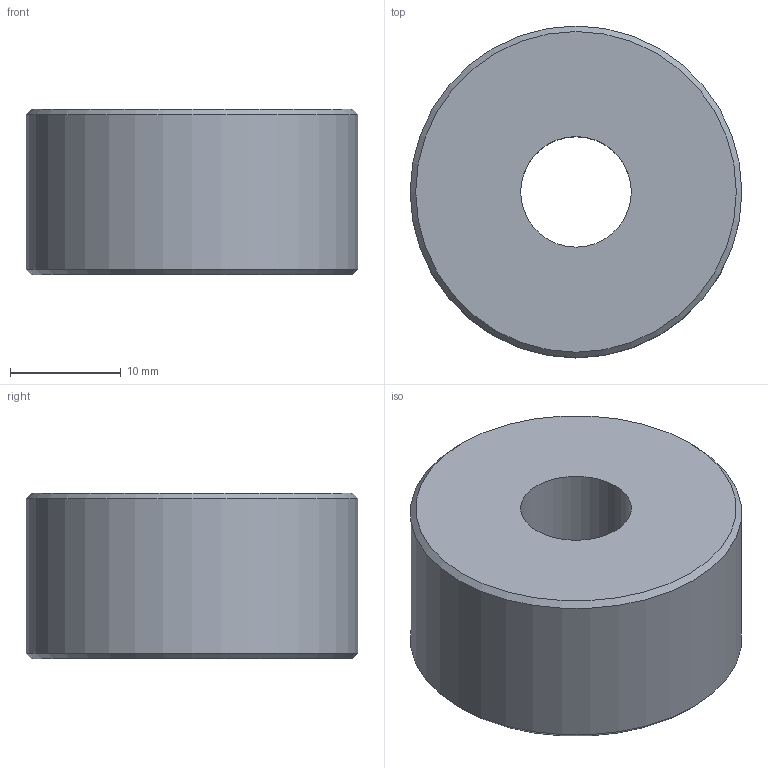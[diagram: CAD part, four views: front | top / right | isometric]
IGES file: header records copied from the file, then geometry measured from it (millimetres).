
Start section: File produced by SOLID-CONCEP (BRep Solid - Entity 186)
Global section: file name: galet.igs; native system: SOLID-CONCEPT V.5.xx; preprocessor: SOLID-CONCEPT-IGES-OUT v2.00; date: 090204.204044; units: millimetre
Bounding box: 30 x 30 x 15 mm (x, y, z)
Volume: 9424.4 mm3; surface area: 3095.7 mm2
Topology: 1 solids, 1 shells, 6 faces, 10 edges, 6 vertices
Faces by surface type: cylinder 2, plane 2, revolution 1, cone 1
Full cylindrical faces by diameter (mm): 30 x1
